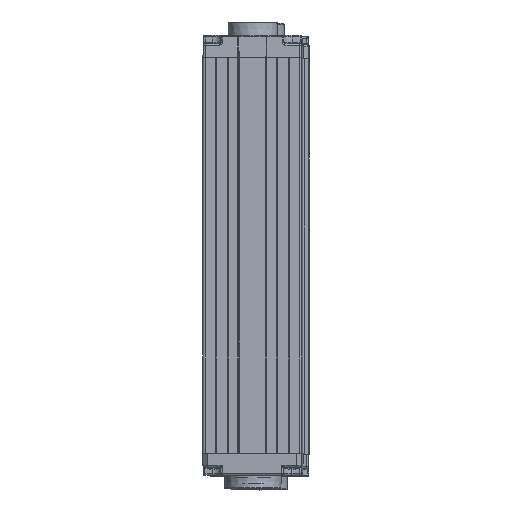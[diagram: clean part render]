
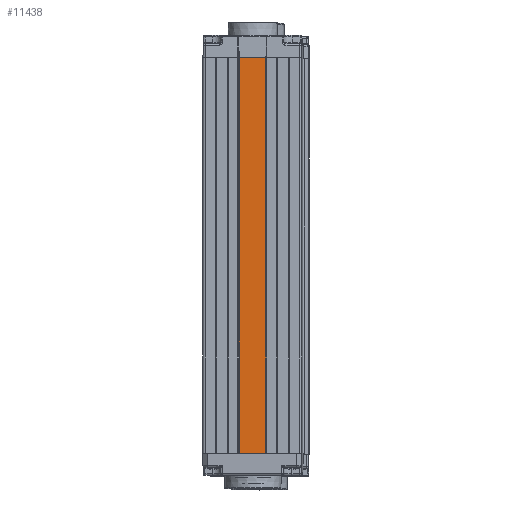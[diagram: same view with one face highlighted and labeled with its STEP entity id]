
A CAD part, top view. The second image highlights one B-rep face of the part: STEP entity #11438.
In plain terms, the highlighted planar face has unit normal (-0.009, 0, 1) as drawn and (0, 0, 1) by its records, which use the part's own axes.
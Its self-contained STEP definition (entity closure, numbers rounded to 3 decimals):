
#499 = AXIS2_PLACEMENT_3D ( 'NONE', #5462, #11035, #16578 ) ;
#1623 = ORIENTED_EDGE ( 'NONE', *, *, #9922, .F. ) ;
#1858 = EDGE_LOOP ( 'NONE', ( #15741, #8740, #1623, #10635 ) ) ;
#2498 = CARTESIAN_POINT ( 'NONE',  ( 4.1, 120., 4.6 ) ) ;
#3032 = DIRECTION ( 'NONE',  ( 1., 0., 0. ) ) ;
#3235 = CARTESIAN_POINT ( 'NONE',  ( -4.1, 120., 4.6 ) ) ;
#4253 = VECTOR ( 'NONE', #3032, 1000. ) ;
#4463 = VECTOR ( 'NONE', #5275, 1000. ) ;
#5275 = DIRECTION ( 'NONE',  ( 1., 0., 0. ) ) ;
#5462 = CARTESIAN_POINT ( 'NONE',  ( -4.1, 120., 4.6 ) ) ;
#5498 = DIRECTION ( 'NONE',  ( 0., -1., 0. ) ) ;
#5504 = VERTEX_POINT ( 'NONE', #3235 ) ;
#6068 = EDGE_CURVE ( 'NONE', #12651, #8866, #12200, .T. ) ;
#7322 = VERTEX_POINT ( 'NONE', #10595 ) ;
#8045 = DIRECTION ( 'NONE',  ( 0., -1., 0. ) ) ;
#8740 = ORIENTED_EDGE ( 'NONE', *, *, #15682, .F. ) ;
#8866 = VERTEX_POINT ( 'NONE', #13212 ) ;
#9922 = EDGE_CURVE ( 'NONE', #5504, #7322, #9951, .T. ) ;
#9951 = LINE ( 'NONE', #15512, #4253 ) ;
#10595 = CARTESIAN_POINT ( 'NONE',  ( 4.1, 120., 4.6 ) ) ;
#10635 = ORIENTED_EDGE ( 'NONE', *, *, #15736, .T. ) ;
#11035 = DIRECTION ( 'NONE',  ( 0., 0., -1. ) ) ;
#11438 = ADVANCED_FACE ( 'NONE', ( #12392 ), #17937, .F. ) ;
#12200 = LINE ( 'NONE', #17752, #4463 ) ;
#12392 = FACE_OUTER_BOUND ( 'NONE', #1858, .T. ) ;
#12424 = LINE ( 'NONE', #17971, #16952 ) ;
#12651 = VERTEX_POINT ( 'NONE', #14091 ) ;
#13168 = VECTOR ( 'NONE', #8045, 1000. ) ;
#13212 = CARTESIAN_POINT ( 'NONE',  ( 4.1, 0., 4.6 ) ) ;
#14091 = CARTESIAN_POINT ( 'NONE',  ( -4.1, 0., 4.6 ) ) ;
#14974 = LINE ( 'NONE', #2498, #13168 ) ;
#15512 = CARTESIAN_POINT ( 'NONE',  ( -4.1, 120., 4.6 ) ) ;
#15682 = EDGE_CURVE ( 'NONE', #7322, #8866, #14974, .T. ) ;
#15736 = EDGE_CURVE ( 'NONE', #5504, #12651, #12424, .T. ) ;
#15741 = ORIENTED_EDGE ( 'NONE', *, *, #6068, .T. ) ;
#16578 = DIRECTION ( 'NONE',  ( -1., 0., 0. ) ) ;
#16952 = VECTOR ( 'NONE', #5498, 1000. ) ;
#17752 = CARTESIAN_POINT ( 'NONE',  ( -4.1, 0., 4.6 ) ) ;
#17937 = PLANE ( 'NONE',  #499 ) ;
#17971 = CARTESIAN_POINT ( 'NONE',  ( -4.1, 120., 4.6 ) ) ;
